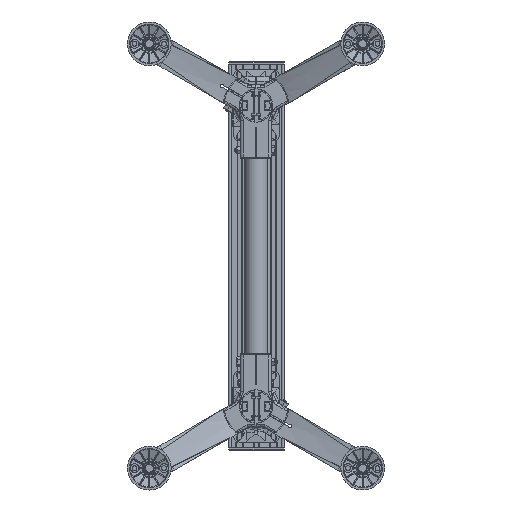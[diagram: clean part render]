
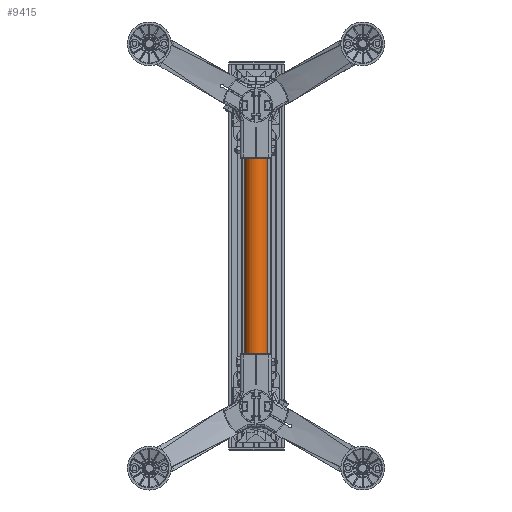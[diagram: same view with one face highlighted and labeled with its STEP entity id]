
A CAD part, front view. The second image highlights one B-rep face of the part: STEP entity #9415.
In plain terms, the highlighted cylindrical face has radius 21 mm (diameter 42 mm), a partial arc.
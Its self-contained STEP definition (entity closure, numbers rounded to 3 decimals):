
#9290 = EDGE_LOOP ( 'NONE', ( #9293, #9294, #9296, #9298 ) ) ;
#9293 = ORIENTED_EDGE ( 'NONE', *, *, #9320, .F. ) ;
#9294 = ORIENTED_EDGE ( 'NONE', *, *, #9295, .F. ) ;
#9295 = EDGE_CURVE ( 'NONE', #9317, #9316, #86075, .T. ) ;
#9296 = ORIENTED_EDGE ( 'NONE', *, *, #9413, .T. ) ;
#9298 = ORIENTED_EDGE ( 'NONE', *, *, #9300, .T. ) ;
#9300 = EDGE_CURVE ( 'NONE', #9411, #9321, #86070, .T. ) ;
#9316 = VERTEX_POINT ( 'NONE', #86129 ) ;
#9317 = VERTEX_POINT ( 'NONE', #86128 ) ;
#9320 = EDGE_CURVE ( 'NONE', #9316, #9321, #86127, .T. ) ;
#9321 = VERTEX_POINT ( 'NONE', #86123 ) ;
#9411 = VERTEX_POINT ( 'NONE', #86309 ) ;
#9413 = EDGE_CURVE ( 'NONE', #9317, #9411, #86308, .T. ) ;
#9415 = ADVANCED_FACE ( 'NONE', ( #86359 ), #86342, .T. ) ;
#86066 = DIRECTION ( 'NONE',  ( -1., 0., 0. ) ) ;
#86067 = DIRECTION ( 'NONE',  ( 0., 0., -1. ) ) ;
#86068 = CARTESIAN_POINT ( 'NONE',  ( -1., -356.01, 235.5 ) ) ;
#86069 = AXIS2_PLACEMENT_3D ( 'NONE', #86068, #86067, #86066 ) ;
#86070 = CIRCLE ( 'NONE', #86069, 21. ) ;
#86071 = DIRECTION ( 'NONE',  ( -1., 0., 0. ) ) ;
#86072 = DIRECTION ( 'NONE',  ( 0., 0., -1. ) ) ;
#86073 = CARTESIAN_POINT ( 'NONE',  ( -1., -356.01, -235.5 ) ) ;
#86074 = AXIS2_PLACEMENT_3D ( 'NONE', #86073, #86072, #86071 ) ;
#86075 = CIRCLE ( 'NONE', #86074, 21. ) ;
#86123 = CARTESIAN_POINT ( 'NONE',  ( -22., -356.01, 235.5 ) ) ;
#86124 = DIRECTION ( 'NONE',  ( 0., 0., 1. ) ) ;
#86125 = VECTOR ( 'NONE', #86124, 1000. ) ;
#86126 = CARTESIAN_POINT ( 'NONE',  ( -22., -356.01, -235.5 ) ) ;
#86127 = LINE ( 'NONE', #86126, #86125 ) ;
#86128 = CARTESIAN_POINT ( 'NONE',  ( 20., -356.01, -235.5 ) ) ;
#86129 = CARTESIAN_POINT ( 'NONE',  ( -22., -356.01, -235.5 ) ) ;
#86305 = DIRECTION ( 'NONE',  ( 0., 0., 1. ) ) ;
#86306 = VECTOR ( 'NONE', #86305, 1000. ) ;
#86307 = CARTESIAN_POINT ( 'NONE',  ( 20., -356.01, -235.5 ) ) ;
#86308 = LINE ( 'NONE', #86307, #86306 ) ;
#86309 = CARTESIAN_POINT ( 'NONE',  ( 20., -356.01, 235.5 ) ) ;
#86336 = DIRECTION ( 'NONE',  ( 1., 0., 0. ) ) ;
#86337 = DIRECTION ( 'NONE',  ( 0., 0., 1. ) ) ;
#86338 = CARTESIAN_POINT ( 'NONE',  ( -1., -356.01, -235.5 ) ) ;
#86339 = AXIS2_PLACEMENT_3D ( 'NONE', #86338, #86337, #86336 ) ;
#86342 = CYLINDRICAL_SURFACE ( 'NONE', #86339, 21. ) ;
#86359 = FACE_OUTER_BOUND ( 'NONE', #9290, .T. ) ;
